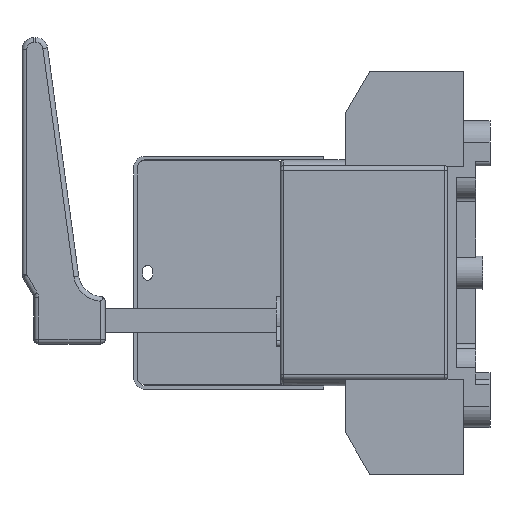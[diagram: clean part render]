
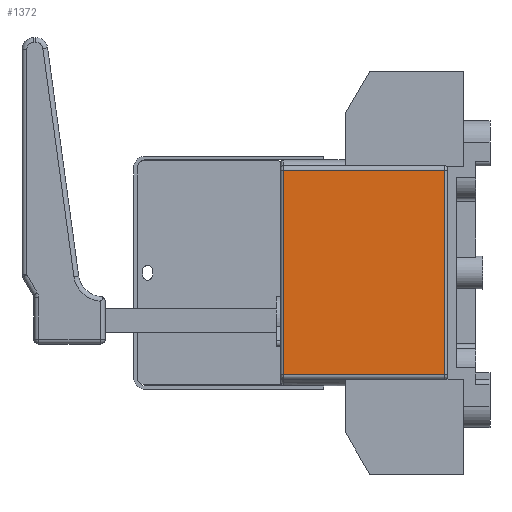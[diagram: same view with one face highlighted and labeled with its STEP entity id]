
A CAD part, left-side view. The second image highlights one B-rep face of the part: STEP entity #1372.
In plain terms, the highlighted planar face has unit normal (-1, 0, 0).
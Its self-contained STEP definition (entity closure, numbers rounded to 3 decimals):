
#448=FACE_OUTER_BOUND('',#4060,.T.);
#1372=ADVANCED_FACE('',(#448),#2346,.F.);
#2346=PLANE('',#19343);
#4060=EDGE_LOOP('',(#5590,#5591,#5592,#5593));
#5590=ORIENTED_EDGE('',*,*,#12860,.F.);
#5591=ORIENTED_EDGE('',*,*,#12861,.T.);
#5592=ORIENTED_EDGE('',*,*,#12857,.T.);
#5593=ORIENTED_EDGE('',*,*,#12862,.T.);
#11021=VERTEX_POINT('',#27243);
#11022=VERTEX_POINT('',#27244);
#11023=VERTEX_POINT('',#27249);
#11024=VERTEX_POINT('',#27250);
#12857=EDGE_CURVE('',#11021,#11022,#15507,.T.);
#12860=EDGE_CURVE('',#11023,#11024,#15508,.T.);
#12861=EDGE_CURVE('',#11023,#11021,#15509,.T.);
#12862=EDGE_CURVE('',#11022,#11024,#15510,.T.);
#15507=LINE('',#27242,#17467);
#15508=LINE('',#27248,#17468);
#15509=LINE('',#27251,#17469);
#15510=LINE('',#27252,#17470);
#17467=VECTOR('',#21435,1.);
#17468=VECTOR('',#21442,1.);
#17469=VECTOR('',#21443,1.);
#17470=VECTOR('',#21444,1.);
#19343=AXIS2_PLACEMENT_3D('',#27253,#21445,#21446);
#21435=DIRECTION('',(0.,-1.,0.));
#21442=DIRECTION('',(0.,-1.,0.));
#21443=DIRECTION('',(0.,0.,-1.));
#21444=DIRECTION('',(0.,0.,1.));
#21445=DIRECTION('',(1.,0.,0.));
#21446=DIRECTION('',(0.,0.,-1.));
#27242=CARTESIAN_POINT('',(-41.,35.,-43.));
#27243=CARTESIAN_POINT('',(-41.,69.,-43.));
#27244=CARTESIAN_POINT('',(-41.,1.,-43.));
#27248=CARTESIAN_POINT('',(-41.,35.,43.));
#27249=CARTESIAN_POINT('',(-41.,69.,43.));
#27250=CARTESIAN_POINT('',(-41.,1.,43.));
#27251=CARTESIAN_POINT('',(-41.,69.,-43.));
#27252=CARTESIAN_POINT('',(-41.,1.,-43.));
#27253=CARTESIAN_POINT('',(-41.,35.,-43.));
